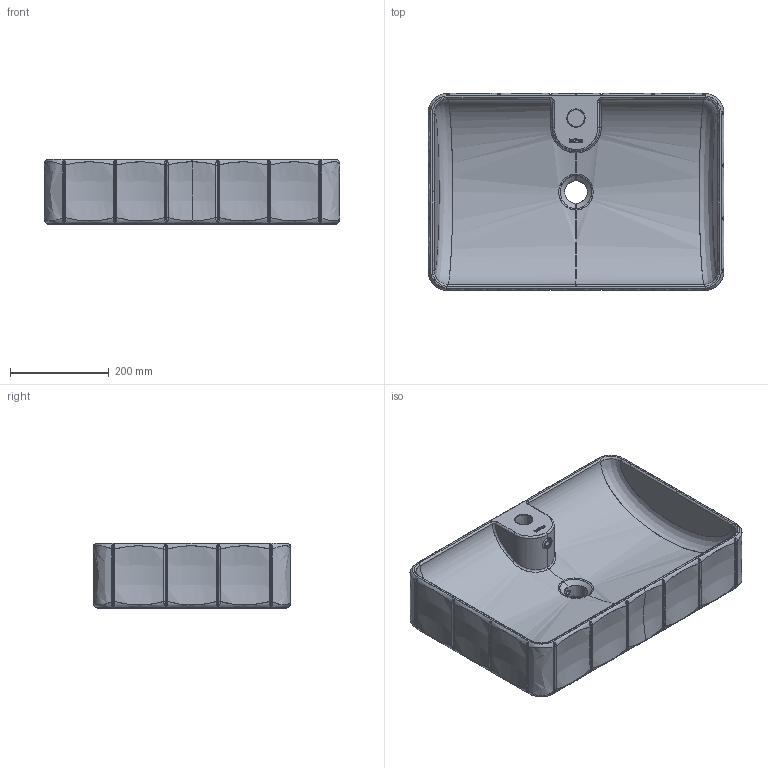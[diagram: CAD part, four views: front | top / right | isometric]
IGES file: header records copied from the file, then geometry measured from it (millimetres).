
Global section: file name: C:\Users\User\Desktop\LAVABOS\4160_CIRCUS 60\4160_CIRCUS 60.igs; native system: Rhinoceros ( May  7 2021 ); preprocessor: Trout Lake IGES 012 May  7 2021; date: 220618.101446; units: millimetre
Bounding box: 600 x 400 x 133.25 mm (x, y, z)
Surface area: 978937.8 mm2 (no closed solid volume)
Topology: 0 solids, 0 shells, 463 faces, 8526 edges, 8519 vertices
Faces by surface type: bspline 463
